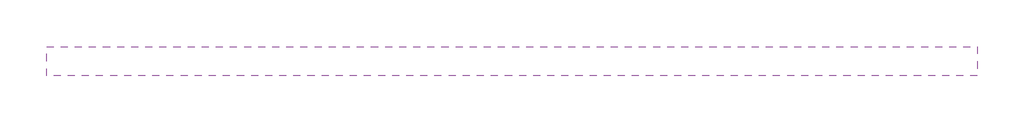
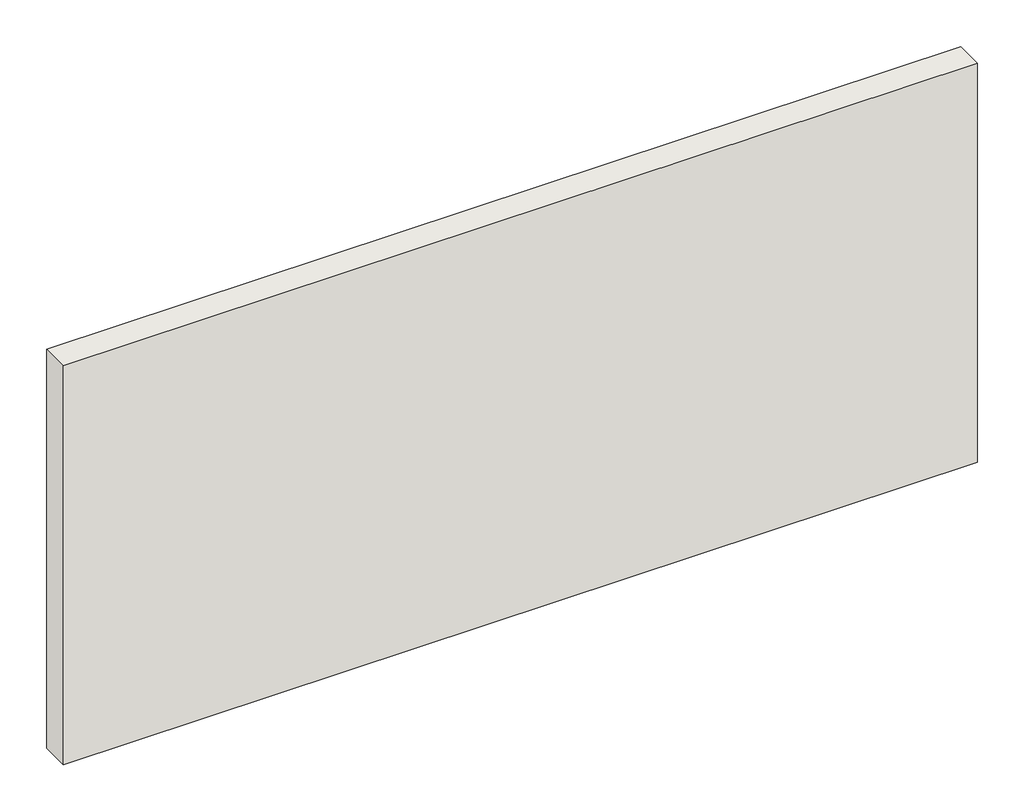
# One storey: 1 wall.
"""IFC4 building model written with IfcOpenShell, lengths in millimetres."""

import ifcopenshell
import ifcopenshell.guid

model = None  # the IFC model being written
_history = None  # IfcOwnerHistory: only IFC2X3 demands one
_inside = {}  # id of a spatial element -> (the spatial element, [elements in it])
_under = {}  # id of a project, library or spatial element -> (it, [spatial elements below it])
_declared = {}  # id of a project -> (the project, [libraries it declares])
_typed = {}  # id of a type object -> (the type object, [elements of that type])
_made_of = {}  # id of a material, layer set ... -> (it, [elements and type objects made of it])


def new_model(schema):
    """Start an empty IFC model of exactly this schema.

    Asked for "IFC4X3", IfcOpenShell would pick the latest addendum, in which some entities
    have other attributes; the version numbers below select the first issue.
    IFC2X3 requires an IfcOwnerHistory on every rooted entity: one is made here for all.
    """
    global model, _history
    if schema == "IFC4X3":
        model = ifcopenshell.file(schema_version=(4, 3, 0, 0))
    else:
        model = ifcopenshell.file(schema=schema)
    _inside.clear()
    _under.clear()
    _declared.clear()
    _typed.clear()
    _made_of.clear()
    _history = None
    if model.schema == "IFC2X3":
        org = make("IfcOrganization", Name="unknown")
        user = make(
            "IfcPersonAndOrganization",
            ThePerson=make("IfcPerson", FamilyName="unknown"),
            TheOrganization=org,
        )
        app = make(
            "IfcApplication",
            ApplicationDeveloper=org,
            Version="unknown",
            ApplicationFullName="unknown",
            ApplicationIdentifier="unknown",
        )
        _history = make(
            "IfcOwnerHistory",
            OwningUser=user,
            OwningApplication=app,
            ChangeAction="ADDED",
            CreationDate=0,
        )
    return model


def make(cls, **values):
    """One entity of the class cls with the attributes given. An attribute that is None is left unset."""
    return model.create_entity(
        cls, **{name: value for name, value in values.items() if value is not None}
    )


def rooted(cls, **values):
    """An entity with a GlobalId (a new one), such as an element, a storey or a relation."""
    return make(cls, GlobalId=ifcopenshell.guid.new(), OwnerHistory=_history, **values)


def si_unit(unit_type, name, prefix=None):
    """IfcSIUnit, for example si_unit("LENGTHUNIT", "METRE", prefix="MILLI")."""
    return make("IfcSIUnit", UnitType=unit_type, Prefix=prefix, Name=name)


def assignment(units):
    """IfcUnitAssignment: the units of a project."""
    return None if units is None else make("IfcUnitAssignment", Units=units)


def point(xyz):
    """IfcCartesianPoint."""
    return None if xyz is None else make("IfcCartesianPoint", Coordinates=xyz)


def direction(xyz):
    """IfcDirection."""
    return None if xyz is None else make("IfcDirection", DirectionRatios=xyz)


def frame(location, z_axis=None, x_axis=None):
    """IfcAxis2Placement3D, a coordinate frame: its origin and axes. An axis left out is left unset."""
    return make(
        "IfcAxis2Placement3D",
        Location=point(location),
        Axis=direction(z_axis),
        RefDirection=direction(x_axis),
    )


def origin():
    """The frame at (0, 0, 0) with its axes left unset."""
    return frame((0.0, 0.0, 0.0))


def place(relative_to, where):
    """IfcLocalPlacement: puts the frame where relative to a parent placement (None: the world)."""
    return make(
        "IfcLocalPlacement", PlacementRelTo=relative_to, RelativePlacement=where
    )


def context(
    kind, dimensions, precision=None, world=None, true_north=None, identifier=None
):
    """IfcGeometricRepresentationContext, for example the 3D "Model" context."""
    return make(
        "IfcGeometricRepresentationContext",
        ContextIdentifier=identifier,
        ContextType=kind,
        CoordinateSpaceDimension=dimensions,
        Precision=precision,
        WorldCoordinateSystem=world,
        TrueNorth=true_north,
    )


def project(units=None, contexts=None):
    """IfcProject with its units and contexts."""
    return rooted(
        "IfcProject",
        Name="project",
        RepresentationContexts=contexts,
        UnitsInContext=assignment(units),
    )


def spatial(cls, under=None, at=None, **own):
    """A site, building, storey or space (cls), placed at a placement, below another one or the project."""
    s = rooted(cls, ObjectPlacement=at, **own)
    if under is not None:
        _under.setdefault(under.id(), (under, []))[1].append(s)
    return s


def polyline(points):
    """IfcPolyline through the points."""
    return make("IfcPolyline", Points=[point(p) for p in points])


def outline(outer, holes=None, kind="AREA"):
    """IfcArbitraryClosedProfileDef: a profile drawn as a closed curve; with holes, ...WithVoids."""
    if holes is None:
        return make("IfcArbitraryClosedProfileDef", ProfileType=kind, OuterCurve=outer)
    return make(
        "IfcArbitraryProfileDefWithVoids",
        ProfileType=kind,
        OuterCurve=outer,
        InnerCurves=holes,
    )


def extrude(swept, where, along, depth):
    """IfcExtrudedAreaSolid: the profile swept, set in the frame where, extruded along a direction by depth."""
    return make(
        "IfcExtrudedAreaSolid",
        SweptArea=swept,
        Position=where,
        ExtrudedDirection=direction(along),
        Depth=depth,
    )


def shape(context_of_items, identifier, shape_type, items):
    """IfcShapeRepresentation: the items that make up one representation, for example the "Body"."""
    return make(
        "IfcShapeRepresentation",
        ContextOfItems=context_of_items,
        RepresentationIdentifier=identifier,
        RepresentationType=shape_type,
        Items=items,
    )


def made_of(thing, what):
    """Note that an element or type object is made of a material, layer set ...; save() writes the relation."""
    if what is not None:
        _made_of.setdefault(what.id(), (what, []))[1].append(thing)
    return thing


def element(
    cls,
    number,
    at=None,
    inside=None,
    cuts=None,
    type_object=None,
    material=None,
    context=None,
    identifier="Body",
    shape_type=None,
    held_by="IfcProductDefinitionShape",
    body=None,
    shapes=None,
    **own,
):
    """One element of the class cls, such as IfcWall. Its Tag is "e" and its number.

    at: its placement. inside: the storey or other place that contains it. cuts: it is an
    opening in that element (IfcRelVoidsElement). A single representation is given by context,
    identifier, shape_type and body (its items); several are given by shapes. held_by: the class
    of the entity that holds the representations. save() writes the other relations.
    """
    e = rooted(cls, Tag="e%d" % number, ObjectPlacement=at, **own)
    if body is not None:
        shapes = [shape(context, identifier, shape_type, body)]
    if shapes is not None:
        e.Representation = make(held_by, Representations=shapes)
    if inside is not None:
        _inside.setdefault(inside.id(), (inside, []))[1].append(e)
    if cuts is not None:
        rooted(
            "IfcRelVoidsElement", RelatingBuildingElement=cuts, RelatedOpeningElement=e
        )
    if type_object is not None:
        _typed.setdefault(type_object.id(), (type_object, []))[1].append(e)
    return made_of(e, material)


def aggregate(whole, parts):
    """IfcRelAggregates: a whole, such as a stair, and the parts it consists of."""
    return rooted("IfcRelAggregates", RelatingObject=whole, RelatedObjects=parts)


def save(model, path):
    """Write the relations noted so far, then the file.

    IfcRelAggregates (storeys below a building ...), IfcRelContainedInSpatialStructure (elements
    in a storey), IfcRelDefinesByType, IfcRelAssociatesMaterial and IfcRelDeclares: one each for
    every whole, place, type object, material and project.
    """
    for whole, parts in _under.values():
        aggregate(whole, parts)
    for where, things in _inside.values():
        rooted(
            "IfcRelContainedInSpatialStructure",
            RelatedElements=things,
            RelatingStructure=where,
        )
    for kind, things in _typed.values():
        rooted("IfcRelDefinesByType", RelatedObjects=things, RelatingType=kind)
    for what, things in _made_of.values():
        rooted("IfcRelAssociatesMaterial", RelatedObjects=things, RelatingMaterial=what)
    for by, libraries in _declared.values():
        rooted("IfcRelDeclares", RelatingContext=by, RelatedDefinitions=libraries)
    model.write(path)


model = new_model("IFC4")

# Units and contexts
model_context = context("Model", 3, world=origin())
ifc_project = project(units=[si_unit("LENGTHUNIT", "METRE", prefix="MILLI")], contexts=[model_context])

# Site, building, storey
site = spatial("IfcSite", under=ifc_project)
building = spatial("IfcBuilding", under=site)
storey = spatial("IfcBuildingStorey", under=building, Name="TPFYY/15-12-40-12", Elevation=0.0)

# Wall
placement = place(None, origin())
element("IfcWall", 1, ObjectType="Construction_Thermochip_WALL_TPFYY/ 15-12-40-12 (2600 X 1200)", at=placement, inside=storey, context=model_context, shape_type="SweptSolid", body=[
    extrude(outline(polyline([(47816.6663638, -56228.1444819), (45216.6663638, -56228.1444819), (45216.6663638, -56146.1444819), (47816.6663638, -56146.1444819), (47816.6663638, -56228.1444819)])), frame((0.0, 0.0, 2800.0), z_axis=(0.0, 0.0, 1.0), x_axis=(1.0, 0.0, 0.0)), (0.0, 0.0, 1.0), 1200.0),
])

save(model, "model.ifc")
